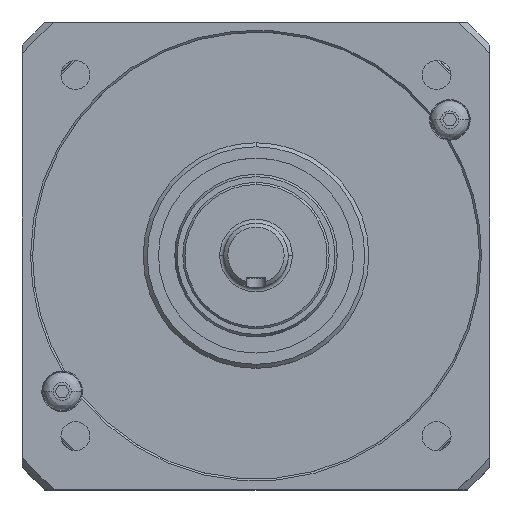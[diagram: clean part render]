
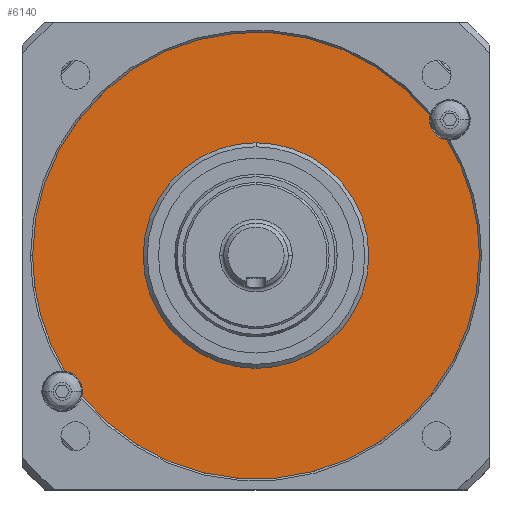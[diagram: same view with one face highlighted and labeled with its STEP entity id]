
A CAD part, top view. The second image highlights one B-rep face of the part: STEP entity #6140.
In plain terms, the highlighted planar face has unit normal (0, 0, 1).
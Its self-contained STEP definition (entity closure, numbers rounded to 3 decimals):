
#5877=CARTESIAN_POINT('',(0.,0.,77.899));
#5878=DIRECTION('',(0.,0.,-1.));
#5879=DIRECTION('',(0.,1.,0.));
#5880=AXIS2_PLACEMENT_3D('',#5877,#5878,#5879);
#5882=CARTESIAN_POINT('',(0.,0.,77.899));
#5883=DIRECTION('',(0.,0.,-1.));
#5884=DIRECTION('',(0.,-1.,0.));
#5885=AXIS2_PLACEMENT_3D('',#5882,#5883,#5884);
#5896=CARTESIAN_POINT('',(0.,0.,77.899));
#5897=DIRECTION('',(0.,0.,1.));
#5898=DIRECTION('',(1.,0.,0.));
#5899=AXIS2_PLACEMENT_3D('',#5896,#5897,#5898);
#5914=CARTESIAN_POINT('',(0.,0.,77.899));
#5915=DIRECTION('',(0.,0.,1.));
#5916=DIRECTION('',(0.779,0.627,0.));
#5917=AXIS2_PLACEMENT_3D('',#5914,#5915,#5916);
#5928=CARTESIAN_POINT('',(0.,0.,77.899));
#5929=DIRECTION('',(0.,0.,1.));
#5930=DIRECTION('',(-1.,0.,0.));
#5931=AXIS2_PLACEMENT_3D('',#5928,#5929,#5930);
#5946=CARTESIAN_POINT('',(0.,0.,77.899));
#5947=DIRECTION('',(0.,0.,1.));
#5948=DIRECTION('',(-0.779,-0.627,0.));
#5949=AXIS2_PLACEMENT_3D('',#5946,#5947,#5948);
#5951=CARTESIAN_POINT('',(-47.716,-33.411,77.899));
#5952=DIRECTION('',(0.,0.,-1.));
#5953=DIRECTION('',(0.129,0.992,0.));
#5954=AXIS2_PLACEMENT_3D('',#5951,#5952,#5953);
#5961=CARTESIAN_POINT('',(47.716,33.411,77.899));
#5962=DIRECTION('',(0.,0.,-1.));
#5963=DIRECTION('',(-0.129,-0.992,0.));
#5964=AXIS2_PLACEMENT_3D('',#5961,#5962,#5963);
#5987=CARTESIAN_POINT('',(0.,27.775,77.899));
#5988=CARTESIAN_POINT('',(0.,-27.775,77.899));
#5989=VERTEX_POINT('',#5987);
#5990=VERTEX_POINT('',#5988);
#5991=CARTESIAN_POINT('',(55.,0.,77.899));
#5992=CARTESIAN_POINT('',(47.068,28.453,77.899));
#5993=VERTEX_POINT('',#5991);
#5994=VERTEX_POINT('',#5992);
#5995=CARTESIAN_POINT('',(42.835,34.498,77.899));
#5996=CARTESIAN_POINT('',(-55.,0.,77.899));
#5997=VERTEX_POINT('',#5995);
#5998=VERTEX_POINT('',#5996);
#5999=CARTESIAN_POINT('',(-47.068,-28.453,77.899));
#6000=VERTEX_POINT('',#5999);
#6001=CARTESIAN_POINT('',(-42.835,-34.498,77.899));
#6002=VERTEX_POINT('',#6001);
#6117=CARTESIAN_POINT('',(0.,0.,77.899));
#6118=DIRECTION('',(0.,0.,1.));
#6119=DIRECTION('',(0.,1.,0.));
#6120=AXIS2_PLACEMENT_3D('',#6117,#6118,#6119);
#6121=PLANE('',#6120);
#6123=ORIENTED_EDGE('',*,*,#6122,.F.);
#6125=ORIENTED_EDGE('',*,*,#6124,.F.);
#6127=ORIENTED_EDGE('',*,*,#6126,.F.);
#6129=ORIENTED_EDGE('',*,*,#6128,.F.);
#6131=ORIENTED_EDGE('',*,*,#6130,.F.);
#6133=ORIENTED_EDGE('',*,*,#6132,.F.);
#6134=EDGE_LOOP('',(#6123,#6125,#6127,#6129,#6131,#6133));
#6135=FACE_OUTER_BOUND('',#6134,.F.);
#6136=ORIENTED_EDGE('',*,*,#6111,.F.);
#6137=ORIENTED_EDGE('',*,*,#6097,.F.);
#6138=EDGE_LOOP('',(#6136,#6137));
#6139=FACE_BOUND('',#6138,.F.);
#6140=ADVANCED_FACE('',(#6135,#6139),#6121,.T.);
#5881=CIRCLE('',#5880,27.775);
#5886=CIRCLE('',#5885,27.775);
#5900=CIRCLE('',#5899,55.);
#5918=CIRCLE('',#5917,55.);
#5932=CIRCLE('',#5931,55.);
#5950=CIRCLE('',#5949,55.);
#5955=CIRCLE('',#5954,5.);
#5965=CIRCLE('',#5964,5.);
#6097=EDGE_CURVE('',#5990,#5989,#5886,.T.);
#6111=EDGE_CURVE('',#5989,#5990,#5881,.T.);
#6122=EDGE_CURVE('',#5993,#5994,#5900,.T.);
#6124=EDGE_CURVE('',#6002,#5993,#5950,.T.);
#6126=EDGE_CURVE('',#6000,#6002,#5955,.T.);
#6128=EDGE_CURVE('',#5998,#6000,#5932,.T.);
#6130=EDGE_CURVE('',#5997,#5998,#5918,.T.);
#6132=EDGE_CURVE('',#5994,#5997,#5965,.T.);
